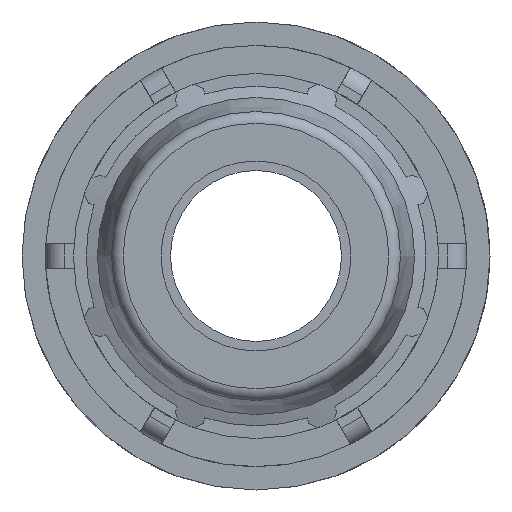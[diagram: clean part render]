
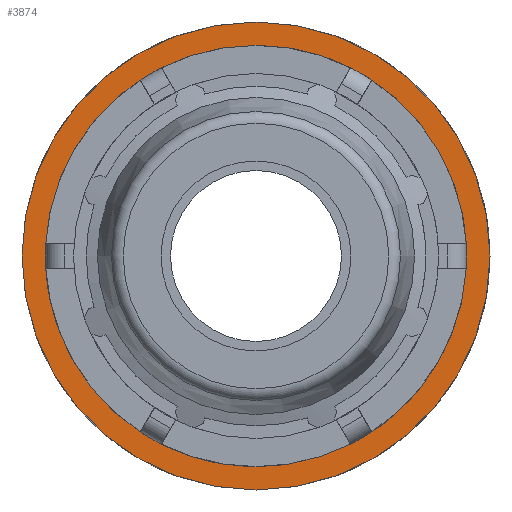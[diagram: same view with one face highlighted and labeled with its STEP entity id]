
A CAD part, left-side view. The second image highlights one B-rep face of the part: STEP entity #3874.
In plain terms, the highlighted planar face has unit normal (-1, 0, 0).
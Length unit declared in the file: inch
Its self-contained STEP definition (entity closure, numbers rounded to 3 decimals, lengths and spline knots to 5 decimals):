
#48=FACE_BOUND('',#530,.T.);
#334=FACE_OUTER_BOUND('',#529,.T.);
#529=EDGE_LOOP('',(#3168,#3169));
#530=EDGE_LOOP('',(#3170,#3171));
#607=CIRCLE('',#4005,1.615);
#608=CIRCLE('',#4006,1.615);
#734=CIRCLE('',#4251,1.292);
#735=CIRCLE('',#4252,1.292);
#1472=VERTEX_POINT('',#5677);
#1473=VERTEX_POINT('',#5679);
#1700=VERTEX_POINT('',#6688);
#1701=VERTEX_POINT('',#6689);
#1878=EDGE_CURVE('',#1472,#1473,#607,.T.);
#1879=EDGE_CURVE('',#1473,#1472,#608,.T.);
#2233=EDGE_CURVE('',#1700,#1701,#734,.T.);
#2234=EDGE_CURVE('',#1701,#1700,#735,.T.);
#3168=ORIENTED_EDGE('',*,*,#1879,.F.);
#3169=ORIENTED_EDGE('',*,*,#1878,.F.);
#3170=ORIENTED_EDGE('',*,*,#2233,.T.);
#3171=ORIENTED_EDGE('',*,*,#2234,.T.);
#3509=PLANE('',#4250);
#3874=ADVANCED_FACE('',(#334,#48),#3509,.T.);
#4005=AXIS2_PLACEMENT_3D('',#5680,#4559,#4560);
#4006=AXIS2_PLACEMENT_3D('',#5681,#4561,#4562);
#4250=AXIS2_PLACEMENT_3D('',#6687,#5213,#5214);
#4251=AXIS2_PLACEMENT_3D('',#6690,#5215,#5216);
#4252=AXIS2_PLACEMENT_3D('',#6691,#5217,#5218);
#4559=DIRECTION('center_axis',(1.,0.,0.));
#4560=DIRECTION('ref_axis',(0.,0.,-1.));
#4561=DIRECTION('center_axis',(1.,0.,0.));
#4562=DIRECTION('ref_axis',(0.,0.,-1.));
#5213=DIRECTION('center_axis',(-1.,0.,0.));
#5214=DIRECTION('ref_axis',(0.,0.,1.));
#5215=DIRECTION('center_axis',(1.,0.,0.));
#5216=DIRECTION('ref_axis',(0.,0.,-1.));
#5217=DIRECTION('center_axis',(1.,0.,0.));
#5218=DIRECTION('ref_axis',(0.,0.,-1.));
#5677=CARTESIAN_POINT('',(1.41236,-1.615,0.));
#5679=CARTESIAN_POINT('',(1.41236,0.,1.615));
#5680=CARTESIAN_POINT('Origin',(1.41236,0.,0.));
#5681=CARTESIAN_POINT('Origin',(1.41236,0.,0.));
#6687=CARTESIAN_POINT('Origin',(1.41236,1.615,0.));
#6688=CARTESIAN_POINT('',(1.41236,1.292,0.));
#6689=CARTESIAN_POINT('',(1.41236,-1.292,0.));
#6690=CARTESIAN_POINT('Origin',(1.41236,0.,0.));
#6691=CARTESIAN_POINT('Origin',(1.41236,0.,0.));
